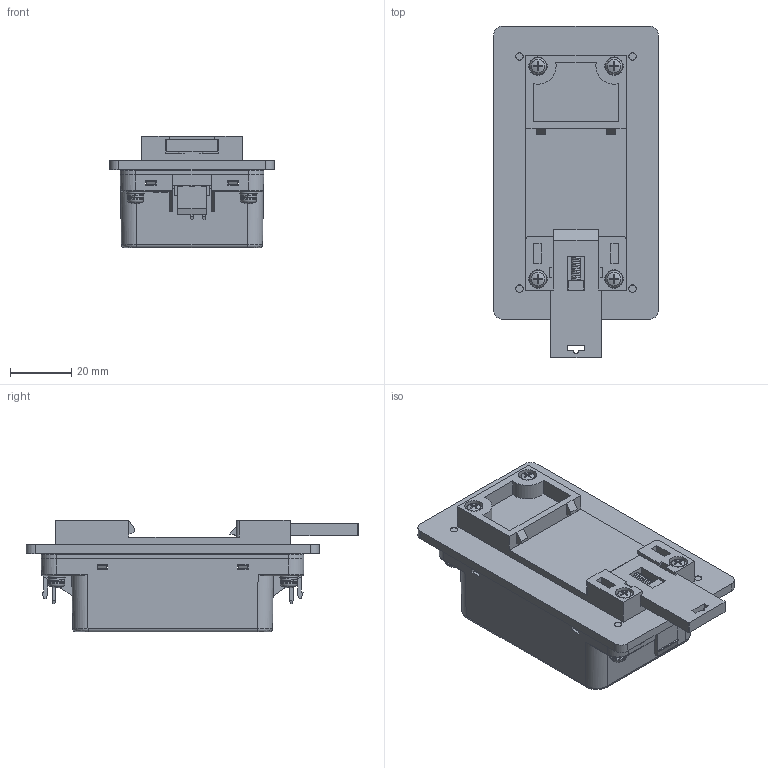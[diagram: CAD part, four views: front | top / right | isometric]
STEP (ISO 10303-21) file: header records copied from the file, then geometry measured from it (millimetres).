
FILE_DESCRIPTION(/* description */ (''),/* implementation_level */ '2;1');
FILE_NAME(/* name */ 'C:\Users\Calliope\Desktop\轉檔暫存用\AMF-30CD-AC-DIN-07.stp',/* time_stamp */ '2024-03-01T19:16:35+08:00',/* author */ ('Calliope'),/* organization */ (''),/* preprocessor_version */ 'ST-DEVELOPER v16.1',/* originating_system */ 'Autodesk Inventor 2016',/* authorisation */ '');
FILE_SCHEMA (('AUTOMOTIVE_DESIGN { 1 0 10303 214 3 1 1 }'));
Length unit declared in the file: millimetre
Products named in the file (1): AMF-30CD-AC-DIN-07
Bounding box: 54 x 108.71 x 36.5 mm (x, y, z)
Volume: 97360.7 mm3; surface area: 35124.4 mm2
Topology: 5 solids, 13 shells, 1082 faces, 2931 edges, 1906 vertices
Faces by surface type: plane 665, cylinder 192, cone 104, bspline 59, torus 52, sphere 10
Full cylindrical faces by diameter (mm): 1.2 x3, 1.5 x2, 1.8 x1, 2.459 x8, 2.729 x8, 2.8 x8, 3 x8, 3.4 x4, 3.5 x12, 5.5 x4, 5.8 x8, 6 x4
Entity records: 37881 total; most frequent: CARTESIAN_POINT 10525, ORIENTED_EDGE 5526, DIRECTION 5083, EDGE_CURVE 2763, VERTEX_POINT 1855, LINE 1841, VECTOR 1841, AXIS2_PLACEMENT_3D 1621
